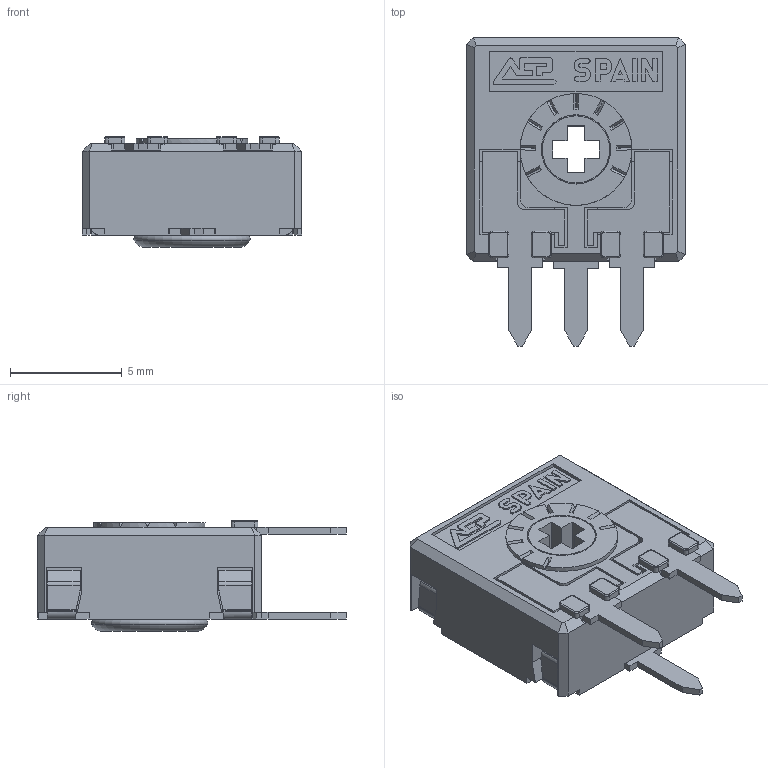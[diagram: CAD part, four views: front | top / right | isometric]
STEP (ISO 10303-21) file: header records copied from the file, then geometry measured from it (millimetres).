
FILE_DESCRIPTION(/* description */ (''),/* implementation_level */ '2;1');
FILE_NAME(/* name */ '\\SERVERACP\intercambio\Ignacio Santa Cecilia\Nueva WEB 2025\CA9 - CE9\CA9RHS3,8.stp',/* time_stamp */ '2025-06-03T15:48:59+02:00',/* author */ ('CEM'),/* organization */ (''),/* preprocessor_version */ 'ST-DEVELOPER v17',/* originating_system */ 'Autodesk Inventor 2018',/* authorisation */ '');
FILE_SCHEMA (('AUTOMOTIVE_DESIGN { 1 0 10303 214 3 1 1 }'));
Length unit declared in the file: millimetre
Products named in the file (1): CA9RHS3,8
Bounding box: 9.8 x 13.8 x 4.95 mm (x, y, z)
Volume: 241.7 mm3; surface area: 812.5 mm2
Topology: 2 solids, 2 shells, 590 faces, 1681 edges, 1078 vertices
Faces by surface type: plane 476, cylinder 79, torus 19, cone 16
Full cylindrical faces by diameter (mm): 3 x1, 3.1 x1, 4 x1, 4.8 x1, 5 x1
Entity records: 19184 total; most frequent: CARTESIAN_POINT 3402, ORIENTED_EDGE 3362, DIRECTION 3112, EDGE_CURVE 1681, LINE 1380, VECTOR 1380, VERTEX_POINT 1078, AXIS2_PLACEMENT_3D 866
